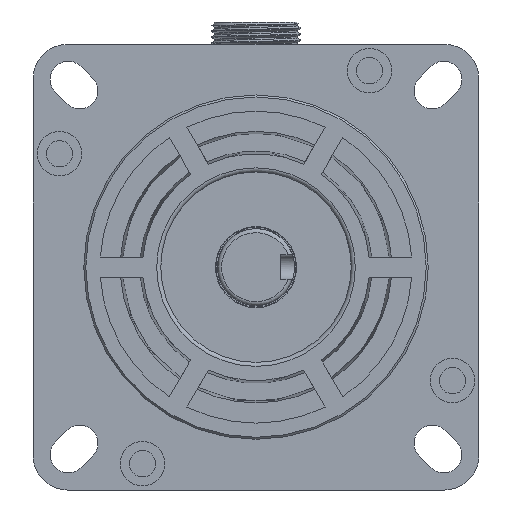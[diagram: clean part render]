
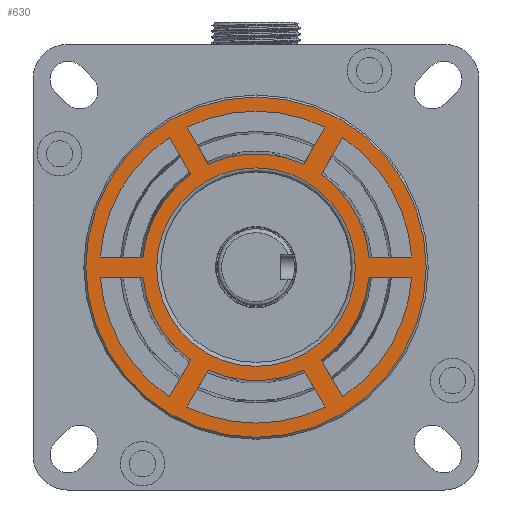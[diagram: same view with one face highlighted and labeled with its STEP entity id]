
A CAD part, front view. The second image highlights one B-rep face of the part: STEP entity #630.
In plain terms, the highlighted planar face has unit normal (0, -1, 0).
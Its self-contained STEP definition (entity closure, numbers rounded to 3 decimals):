
#630=ADVANCED_FACE('',(#1266,#1267,#1268,#1269,#1270,#1271,#1272,#1273),
#856,.T.);
#856=PLANE('',#5196);
#1050=CIRCLE('',#5182,42.);
#1051=CIRCLE('',#5183,38.5);
#1052=CIRCLE('',#5184,28.);
#1053=CIRCLE('',#5185,38.5);
#1054=CIRCLE('',#5186,28.);
#1055=CIRCLE('',#5187,38.5);
#1056=CIRCLE('',#5188,28.);
#1057=CIRCLE('',#5189,38.5);
#1058=CIRCLE('',#5190,28.);
#1059=CIRCLE('',#5191,38.5);
#1060=CIRCLE('',#5192,28.);
#1061=CIRCLE('',#5193,38.5);
#1062=CIRCLE('',#5194,28.);
#1063=CIRCLE('',#5195,24.5);
#1266=FACE_BOUND('',#1482,.T.);
#1267=FACE_BOUND('',#1483,.T.);
#1268=FACE_BOUND('',#1484,.T.);
#1269=FACE_BOUND('',#1485,.T.);
#1270=FACE_BOUND('',#1486,.T.);
#1271=FACE_BOUND('',#1487,.T.);
#1272=FACE_BOUND('',#1488,.T.);
#1273=FACE_BOUND('',#1489,.T.);
#1482=EDGE_LOOP('',(#2159));
#1483=EDGE_LOOP('',(#2160,#2161,#2162,#2163));
#1484=EDGE_LOOP('',(#2164,#2165,#2166,#2167));
#1485=EDGE_LOOP('',(#2168,#2169,#2170,#2171));
#1486=EDGE_LOOP('',(#2172,#2173,#2174,#2175));
#1487=EDGE_LOOP('',(#2176,#2177,#2178,#2179));
#1488=EDGE_LOOP('',(#2180,#2181,#2182,#2183));
#1489=EDGE_LOOP('',(#2184));
#2159=ORIENTED_EDGE('',*,*,#3786,.T.);
#2160=ORIENTED_EDGE('',*,*,#3787,.F.);
#2161=ORIENTED_EDGE('',*,*,#3788,.F.);
#2162=ORIENTED_EDGE('',*,*,#3789,.F.);
#2163=ORIENTED_EDGE('',*,*,#3790,.F.);
#2164=ORIENTED_EDGE('',*,*,#3791,.F.);
#2165=ORIENTED_EDGE('',*,*,#3792,.F.);
#2166=ORIENTED_EDGE('',*,*,#3793,.F.);
#2167=ORIENTED_EDGE('',*,*,#3794,.F.);
#2168=ORIENTED_EDGE('',*,*,#3795,.F.);
#2169=ORIENTED_EDGE('',*,*,#3796,.F.);
#2170=ORIENTED_EDGE('',*,*,#3797,.F.);
#2171=ORIENTED_EDGE('',*,*,#3798,.F.);
#2172=ORIENTED_EDGE('',*,*,#3799,.F.);
#2173=ORIENTED_EDGE('',*,*,#3800,.F.);
#2174=ORIENTED_EDGE('',*,*,#3801,.F.);
#2175=ORIENTED_EDGE('',*,*,#3802,.F.);
#2176=ORIENTED_EDGE('',*,*,#3803,.F.);
#2177=ORIENTED_EDGE('',*,*,#3804,.F.);
#2178=ORIENTED_EDGE('',*,*,#3805,.F.);
#2179=ORIENTED_EDGE('',*,*,#3806,.F.);
#2180=ORIENTED_EDGE('',*,*,#3807,.F.);
#2181=ORIENTED_EDGE('',*,*,#3808,.F.);
#2182=ORIENTED_EDGE('',*,*,#3809,.F.);
#2183=ORIENTED_EDGE('',*,*,#3810,.F.);
#2184=ORIENTED_EDGE('',*,*,#3811,.T.);
#3252=VERTEX_POINT('',#9883);
#3253=VERTEX_POINT('',#9885);
#3254=VERTEX_POINT('',#9886);
#3255=VERTEX_POINT('',#9888);
#3256=VERTEX_POINT('',#9890);
#3257=VERTEX_POINT('',#9893);
#3258=VERTEX_POINT('',#9894);
#3259=VERTEX_POINT('',#9896);
#3260=VERTEX_POINT('',#9898);
#3261=VERTEX_POINT('',#9901);
#3262=VERTEX_POINT('',#9902);
#3263=VERTEX_POINT('',#9904);
#3264=VERTEX_POINT('',#9906);
#3265=VERTEX_POINT('',#9909);
#3266=VERTEX_POINT('',#9910);
#3267=VERTEX_POINT('',#9912);
#3268=VERTEX_POINT('',#9914);
#3269=VERTEX_POINT('',#9917);
#3270=VERTEX_POINT('',#9918);
#3271=VERTEX_POINT('',#9920);
#3272=VERTEX_POINT('',#9922);
#3273=VERTEX_POINT('',#9925);
#3274=VERTEX_POINT('',#9926);
#3275=VERTEX_POINT('',#9928);
#3276=VERTEX_POINT('',#9930);
#3277=VERTEX_POINT('',#9933);
#3786=EDGE_CURVE('',#3252,#3252,#1050,.T.);
#3787=EDGE_CURVE('',#3253,#3254,#4352,.T.);
#3788=EDGE_CURVE('',#3255,#3253,#1051,.T.);
#3789=EDGE_CURVE('',#3256,#3255,#4353,.T.);
#3790=EDGE_CURVE('',#3254,#3256,#1052,.T.);
#3791=EDGE_CURVE('',#3257,#3258,#1053,.T.);
#3792=EDGE_CURVE('',#3259,#3257,#4354,.T.);
#3793=EDGE_CURVE('',#3260,#3259,#1054,.T.);
#3794=EDGE_CURVE('',#3258,#3260,#4355,.T.);
#3795=EDGE_CURVE('',#3261,#3262,#1055,.T.);
#3796=EDGE_CURVE('',#3263,#3261,#4356,.T.);
#3797=EDGE_CURVE('',#3264,#3263,#1056,.T.);
#3798=EDGE_CURVE('',#3262,#3264,#4357,.T.);
#3799=EDGE_CURVE('',#3265,#3266,#1057,.T.);
#3800=EDGE_CURVE('',#3267,#3265,#4358,.T.);
#3801=EDGE_CURVE('',#3268,#3267,#1058,.T.);
#3802=EDGE_CURVE('',#3266,#3268,#4359,.T.);
#3803=EDGE_CURVE('',#3269,#3270,#4360,.T.);
#3804=EDGE_CURVE('',#3271,#3269,#1059,.T.);
#3805=EDGE_CURVE('',#3272,#3271,#4361,.T.);
#3806=EDGE_CURVE('',#3270,#3272,#1060,.T.);
#3807=EDGE_CURVE('',#3273,#3274,#1061,.T.);
#3808=EDGE_CURVE('',#3275,#3273,#4362,.T.);
#3809=EDGE_CURVE('',#3276,#3275,#1062,.T.);
#3810=EDGE_CURVE('',#3274,#3276,#4363,.T.);
#3811=EDGE_CURVE('',#3277,#3277,#1063,.T.);
#4352=LINE('',#9884,#4714);
#4353=LINE('',#9889,#4715);
#4354=LINE('',#9895,#4716);
#4355=LINE('',#9899,#4717);
#4356=LINE('',#9903,#4718);
#4357=LINE('',#9907,#4719);
#4358=LINE('',#9911,#4720);
#4359=LINE('',#9915,#4721);
#4360=LINE('',#9916,#4722);
#4361=LINE('',#9921,#4723);
#4362=LINE('',#9927,#4724);
#4363=LINE('',#9931,#4725);
#4714=VECTOR('',#6065,1.);
#4715=VECTOR('',#6068,1.);
#4716=VECTOR('',#6073,1.);
#4717=VECTOR('',#6076,1.);
#4718=VECTOR('',#6079,1.);
#4719=VECTOR('',#6082,1.);
#4720=VECTOR('',#6085,1.);
#4721=VECTOR('',#6088,1.);
#4722=VECTOR('',#6089,1.);
#4723=VECTOR('',#6092,1.);
#4724=VECTOR('',#6097,1.);
#4725=VECTOR('',#6100,1.);
#5182=AXIS2_PLACEMENT_3D('',#9882,#6063,#6064);
#5183=AXIS2_PLACEMENT_3D('',#9887,#6066,#6067);
#5184=AXIS2_PLACEMENT_3D('',#9891,#6069,#6070);
#5185=AXIS2_PLACEMENT_3D('',#9892,#6071,#6072);
#5186=AXIS2_PLACEMENT_3D('',#9897,#6074,#6075);
#5187=AXIS2_PLACEMENT_3D('',#9900,#6077,#6078);
#5188=AXIS2_PLACEMENT_3D('',#9905,#6080,#6081);
#5189=AXIS2_PLACEMENT_3D('',#9908,#6083,#6084);
#5190=AXIS2_PLACEMENT_3D('',#9913,#6086,#6087);
#5191=AXIS2_PLACEMENT_3D('',#9919,#6090,#6091);
#5192=AXIS2_PLACEMENT_3D('',#9923,#6093,#6094);
#5193=AXIS2_PLACEMENT_3D('',#9924,#6095,#6096);
#5194=AXIS2_PLACEMENT_3D('',#9929,#6098,#6099);
#5195=AXIS2_PLACEMENT_3D('',#9932,#6101,#6102);
#5196=AXIS2_PLACEMENT_3D('',#9934,#6103,#6104);
#6063=DIRECTION('',(0.,-1.,0.));
#6064=DIRECTION('',(0.,0.,-1.));
#6065=DIRECTION('',(-1.,0.,0.));
#6066=DIRECTION('',(0.,-1.,0.));
#6067=DIRECTION('',(1.,0.,0.));
#6068=DIRECTION('',(0.5,0.,-0.866));
#6069=DIRECTION('',(0.,1.,0.));
#6070=DIRECTION('',(1.,0.,0.));
#6071=DIRECTION('',(0.,-1.,0.));
#6072=DIRECTION('',(1.,0.,0.));
#6073=DIRECTION('',(1.,0.,0.));
#6074=DIRECTION('',(0.,1.,0.));
#6075=DIRECTION('',(1.,0.,0.));
#6076=DIRECTION('',(-0.5,0.,-0.866));
#6077=DIRECTION('',(0.,-1.,0.));
#6078=DIRECTION('',(1.,0.,0.));
#6079=DIRECTION('',(0.5,0.,0.866));
#6080=DIRECTION('',(0.,1.,0.));
#6081=DIRECTION('',(1.,0.,0.));
#6082=DIRECTION('',(0.5,0.,-0.866));
#6083=DIRECTION('',(0.,-1.,0.));
#6084=DIRECTION('',(1.,0.,0.));
#6085=DIRECTION('',(-0.5,0.,0.866));
#6086=DIRECTION('',(0.,1.,0.));
#6087=DIRECTION('',(1.,0.,0.));
#6088=DIRECTION('',(1.,0.,0.));
#6089=DIRECTION('',(0.5,0.,0.866));
#6090=DIRECTION('',(0.,-1.,0.));
#6091=DIRECTION('',(1.,0.,0.));
#6092=DIRECTION('',(-1.,0.,0.));
#6093=DIRECTION('',(0.,1.,0.));
#6094=DIRECTION('',(1.,0.,0.));
#6095=DIRECTION('',(0.,-1.,0.));
#6096=DIRECTION('',(1.,0.,0.));
#6097=DIRECTION('',(-0.5,0.,-0.866));
#6098=DIRECTION('',(0.,1.,0.));
#6099=DIRECTION('',(1.,0.,0.));
#6100=DIRECTION('',(-0.5,0.,0.866));
#6101=DIRECTION('',(0.,1.,0.));
#6102=DIRECTION('',(1.,0.,0.));
#6103=DIRECTION('',(0.,-1.,0.));
#6104=DIRECTION('',(-1.,0.,0.));
#9882=CARTESIAN_POINT('',(-46.062,5.034,-206.034));
#9883=CARTESIAN_POINT('',(-46.062,5.034,-248.034));
#9884=CARTESIAN_POINT('',(-46.062,5.034,-208.534));
#9885=CARTESIAN_POINT('',(-7.644,5.034,-208.534));
#9886=CARTESIAN_POINT('',(-18.174,5.034,-208.534));
#9887=CARTESIAN_POINT('',(-46.062,5.034,-206.034));
#9888=CARTESIAN_POINT('',(-24.688,5.034,-238.055));
#9889=CARTESIAN_POINT('',(-43.897,5.034,-204.784));
#9890=CARTESIAN_POINT('',(-29.953,5.034,-228.936));
#9891=CARTESIAN_POINT('',(-46.062,5.034,-206.034));
#9892=CARTESIAN_POINT('',(-46.062,5.034,-206.034));
#9893=CARTESIAN_POINT('',(-7.644,5.034,-203.534));
#9894=CARTESIAN_POINT('',(-24.688,5.034,-174.012));
#9895=CARTESIAN_POINT('',(-46.062,5.034,-203.534));
#9896=CARTESIAN_POINT('',(-18.174,5.034,-203.534));
#9897=CARTESIAN_POINT('',(-46.062,5.034,-206.034));
#9898=CARTESIAN_POINT('',(-29.953,5.034,-183.132));
#9899=CARTESIAN_POINT('',(-43.897,5.034,-207.284));
#9900=CARTESIAN_POINT('',(-46.062,5.034,-206.034));
#9901=CARTESIAN_POINT('',(-29.018,5.034,-171.512));
#9902=CARTESIAN_POINT('',(-63.107,5.034,-171.512));
#9903=CARTESIAN_POINT('',(-48.228,5.034,-204.784));
#9904=CARTESIAN_POINT('',(-34.283,5.034,-180.632));
#9905=CARTESIAN_POINT('',(-46.062,5.034,-206.034));
#9906=CARTESIAN_POINT('',(-57.841,5.034,-180.632));
#9907=CARTESIAN_POINT('',(-43.897,5.034,-204.784));
#9908=CARTESIAN_POINT('',(-46.062,5.034,-206.034));
#9909=CARTESIAN_POINT('',(-67.437,5.034,-174.012));
#9910=CARTESIAN_POINT('',(-84.481,5.034,-203.534));
#9911=CARTESIAN_POINT('',(-48.228,5.034,-207.284));
#9912=CARTESIAN_POINT('',(-62.172,5.034,-183.132));
#9913=CARTESIAN_POINT('',(-46.062,5.034,-206.034));
#9914=CARTESIAN_POINT('',(-73.951,5.034,-203.534));
#9915=CARTESIAN_POINT('',(-46.062,5.034,-203.534));
#9916=CARTESIAN_POINT('',(-48.228,5.034,-204.784));
#9917=CARTESIAN_POINT('',(-67.437,5.034,-238.055));
#9918=CARTESIAN_POINT('',(-62.172,5.034,-228.936));
#9919=CARTESIAN_POINT('',(-46.062,5.034,-206.034));
#9920=CARTESIAN_POINT('',(-84.481,5.034,-208.534));
#9921=CARTESIAN_POINT('',(-46.062,5.034,-208.534));
#9922=CARTESIAN_POINT('',(-73.951,5.034,-208.534));
#9923=CARTESIAN_POINT('',(-46.062,5.034,-206.034));
#9924=CARTESIAN_POINT('',(-46.062,5.034,-206.034));
#9925=CARTESIAN_POINT('',(-63.107,5.034,-240.555));
#9926=CARTESIAN_POINT('',(-29.018,5.034,-240.555));
#9927=CARTESIAN_POINT('',(-43.897,5.034,-207.284));
#9928=CARTESIAN_POINT('',(-57.841,5.034,-231.436));
#9929=CARTESIAN_POINT('',(-46.062,5.034,-206.034));
#9930=CARTESIAN_POINT('',(-34.283,5.034,-231.436));
#9931=CARTESIAN_POINT('',(-48.228,5.034,-207.284));
#9932=CARTESIAN_POINT('',(-46.062,5.034,-206.034));
#9933=CARTESIAN_POINT('',(-21.562,5.034,-206.034));
#9934=CARTESIAN_POINT('',(-46.062,5.034,-206.034));
